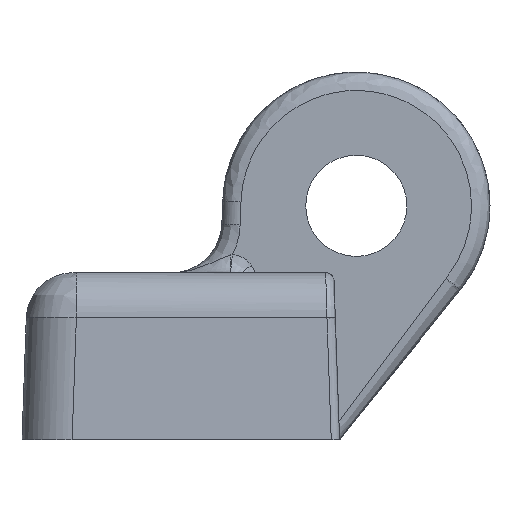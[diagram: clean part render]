
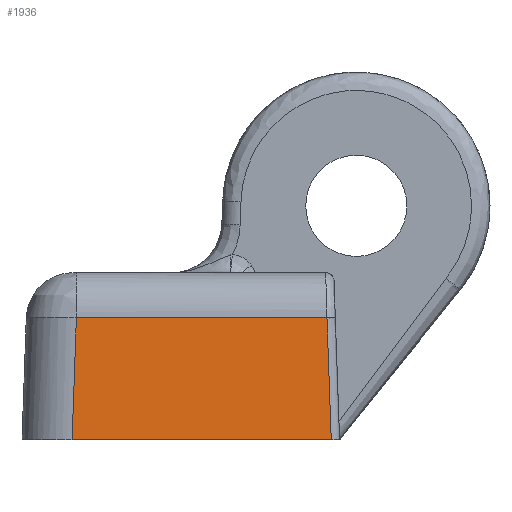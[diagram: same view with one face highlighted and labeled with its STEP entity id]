
A CAD part, front view. The second image highlights one B-rep face of the part: STEP entity #1936.
In plain terms, the highlighted planar face has unit normal (0, -0.999, 0.035).
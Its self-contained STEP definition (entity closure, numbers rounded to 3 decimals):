
#273 = LINE ( 'NONE', #8253, #896 ) ;
#786 = CARTESIAN_POINT ( 'NONE',  ( -9.009, -5.822, 0. ) ) ;
#896 = VECTOR ( 'NONE', #1108, 1000. ) ;
#907 = EDGE_CURVE ( 'NONE', #7338, #4540, #273, .T. ) ;
#941 = FACE_OUTER_BOUND ( 'NONE', #3267, .T. ) ;
#986 = PLANE ( 'NONE',  #6002 ) ;
#1108 = DIRECTION ( 'NONE',  ( 1., 0., 0. ) ) ;
#1696 = DIRECTION ( 'NONE',  ( -1., 0., 0. ) ) ;
#1904 = CARTESIAN_POINT ( 'NONE',  ( -24.511, -5.822, 0. ) ) ;
#1936 = ADVANCED_FACE ( 'NONE', ( #941 ), #986, .T. ) ;
#2054 = VECTOR ( 'NONE', #8476, 1000. ) ;
#2259 = VERTEX_POINT ( 'NONE', #3929 ) ;
#2487 = CARTESIAN_POINT ( 'NONE',  ( -16.76, -5.695, 3.649 ) ) ;
#2650 = DIRECTION ( 'NONE',  ( 0.035, 0.035, 0.999 ) ) ;
#3120 = VECTOR ( 'NONE', #5585, 1000. ) ;
#3197 = EDGE_CURVE ( 'NONE', #7338, #4141, #3534, .T. ) ;
#3267 = EDGE_LOOP ( 'NONE', ( #8704, #4582, #6423, #4443 ) ) ;
#3400 = CARTESIAN_POINT ( 'NONE',  ( -24.256, -5.568, 7.298 ) ) ;
#3428 = CARTESIAN_POINT ( 'NONE',  ( -16.76, -5.568, 7.298 ) ) ;
#3534 = LINE ( 'NONE', #6403, #7584 ) ;
#3929 = CARTESIAN_POINT ( 'NONE',  ( -9.264, -5.568, 7.298 ) ) ;
#3938 = DIRECTION ( 'NONE',  ( 0., -0.999, 0.035 ) ) ;
#4141 = VERTEX_POINT ( 'NONE', #3400 ) ;
#4443 = ORIENTED_EDGE ( 'NONE', *, *, #8549, .F. ) ;
#4540 = VERTEX_POINT ( 'NONE', #786 ) ;
#4582 = ORIENTED_EDGE ( 'NONE', *, *, #3197, .F. ) ;
#5585 = DIRECTION ( 'NONE',  ( -1., 0., 0. ) ) ;
#5793 = LINE ( 'NONE', #8658, #2054 ) ;
#6002 = AXIS2_PLACEMENT_3D ( 'NONE', #2487, #3938, #1696 ) ;
#6403 = CARTESIAN_POINT ( 'NONE',  ( -24.383, -5.695, 3.649 ) ) ;
#6423 = ORIENTED_EDGE ( 'NONE', *, *, #907, .T. ) ;
#6807 = EDGE_CURVE ( 'NONE', #2259, #4141, #7747, .T. ) ;
#7338 = VERTEX_POINT ( 'NONE', #1904 ) ;
#7584 = VECTOR ( 'NONE', #2650, 1000. ) ;
#7747 = LINE ( 'NONE', #3428, #3120 ) ;
#8253 = CARTESIAN_POINT ( 'NONE',  ( -16.76, -5.822, 0. ) ) ;
#8476 = DIRECTION ( 'NONE',  ( 0.035, -0.035, -0.999 ) ) ;
#8549 = EDGE_CURVE ( 'NONE', #2259, #4540, #5793, .T. ) ;
#8658 = CARTESIAN_POINT ( 'NONE',  ( -9.136, -5.695, 3.649 ) ) ;
#8704 = ORIENTED_EDGE ( 'NONE', *, *, #6807, .T. ) ;
